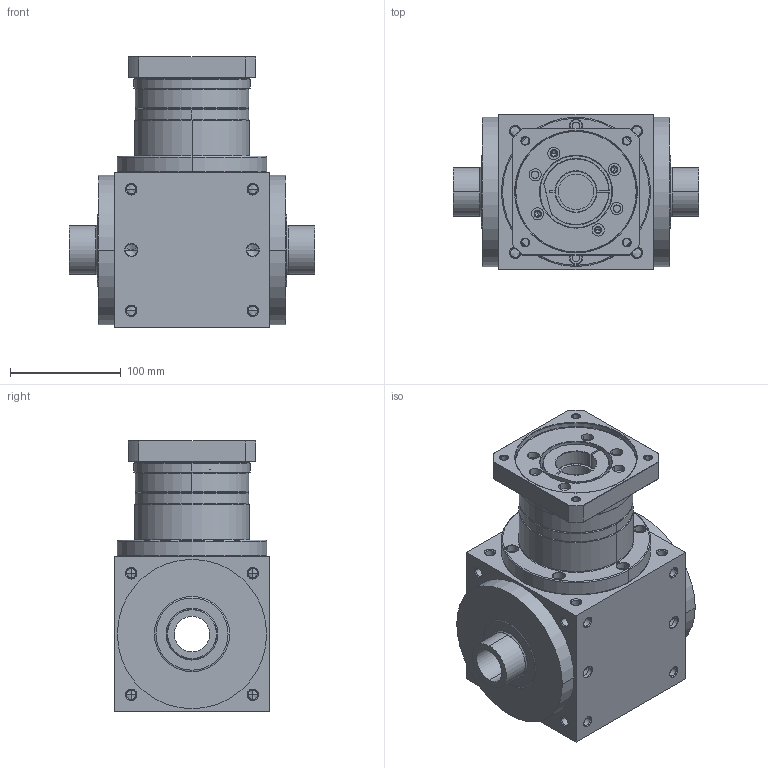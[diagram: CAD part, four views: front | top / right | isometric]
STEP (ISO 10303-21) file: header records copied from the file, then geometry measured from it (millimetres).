
FILE_DESCRIPTION((''),'2;1');
FILE_NAME('AT140FC1-P0403401001_ASM','2009-01-21T',('d00080'),(''),'PRO/ENGINEER BY PARAMETRIC TECHNOLOGY CORPORATION, 2006170','PRO/ENGINEER BY PARAMETRIC TECHNOLOGY CORPORATION, 2006170','');
FILE_SCHEMA(('CONFIG_CONTROL_DESIGN'));
Length unit declared in the file: millimetre
Products named in the file (6): AT140FC-A; P1801600001; P1502600001; P0501400001; P0403401001; AT140FC1-P0403401001_ASM
Assembly tree (5 placements, depth 2):
  AT140FC1-P0403401001_ASM
    AT140FC-A
    P1801600001
    P1502600001
    P0501400001
    P0403401001
Bounding box: 222 x 140 x 245 mm (x, y, z)
Volume: 3639984 mm3; surface area: 338871.3 mm2
Topology: 5 solids, 47 shells, 811 faces, 2012 edges, 1218 vertices
Faces by surface type: cylinder 364, cone 294, plane 121, torus 32
Entity records: 24886 total; most frequent: CARTESIAN_POINT 5366, DIRECTION 4400, ORIENTED_EDGE 3696, EDGE_CURVE 1932, AXIS2_PLACEMENT_3D 1852, VERTEX_POINT 1218, CIRCLE 1020, EDGE_LOOP 988
